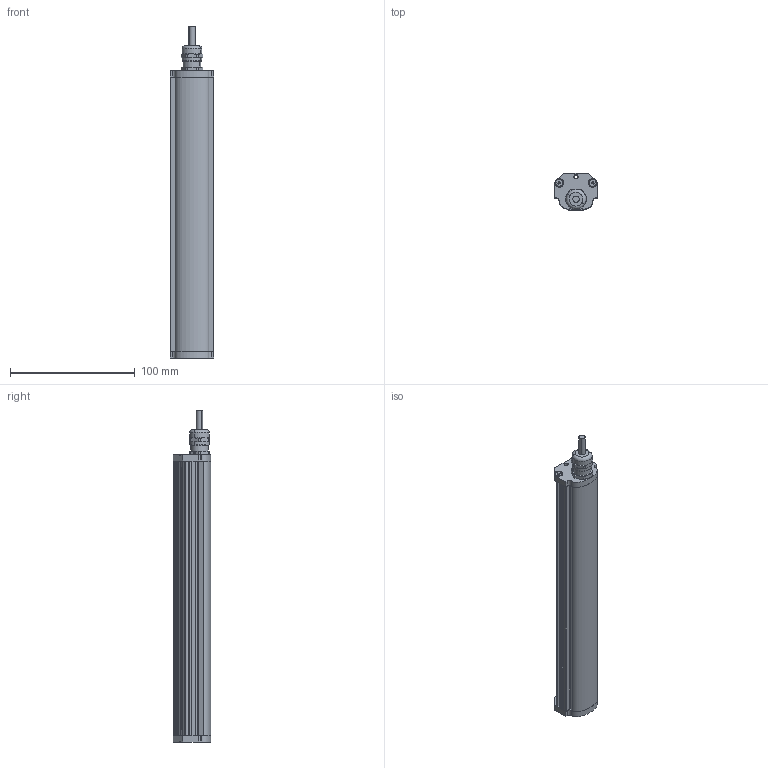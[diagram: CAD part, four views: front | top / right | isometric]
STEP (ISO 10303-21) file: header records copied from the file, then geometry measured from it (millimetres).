
FILE_DESCRIPTION (( 'STEP AP214' ), '1' );
FILE_NAME ('L1050_0220.STEP', '2021-09-20T13:43:41', ( '' ), ( '' ), 'SwSTEP 2.0', 'SolidWorks 2021', '' );
FILE_SCHEMA (( 'AUTOMOTIVE_DESIGN' ));
Length unit declared in the file: millimetre
Products named in the file (9): L1G001050_ Cover 220mm ; SKINTOP MS-M 12x1,5; L1G001050, Platine; L1050_0220; socket countersunk head screw_din_10mm_DIN 7991 - M3 x 30 --- 12N; L1G001050, Profil 220mm; L1G001050, Abdeckung 1; Kabel ø5,4; L1G001050, Abdeckung 2
Assembly tree (14 placements, depth 2):
  L1050_0220
    L1G001050, Profil 220mm
    L1G001050, Platine  x4
    L1G001050, Abdeckung 1
    socket countersunk head screw_din_10mm_DIN 7991 - M3 x 30 --- 12N  x4
    L1G001050, Abdeckung 2
    L1G001050_ Cover 220mm 
    SKINTOP MS-M 12x1,5
    Kabel ø5,4
Bounding box: 35 x 30.02 x 265.86 mm (x, y, z)
Volume: 107320.8 mm3; surface area: 79281.3 mm2
Topology: 14 solids, 15 shells, 659 faces, 1642 edges, 1058 vertices
Faces by surface type: plane 450, cylinder 139, cone 52, torus 14, bspline 4
Entity records: 13244 total; most frequent: CARTESIAN_POINT 2410, DIRECTION 2060, ORIENTED_EDGE 2008, EDGE_CURVE 1004, AXIS2_PLACEMENT_3D 704, VERTEX_POINT 653, LINE 652, VECTOR 652
